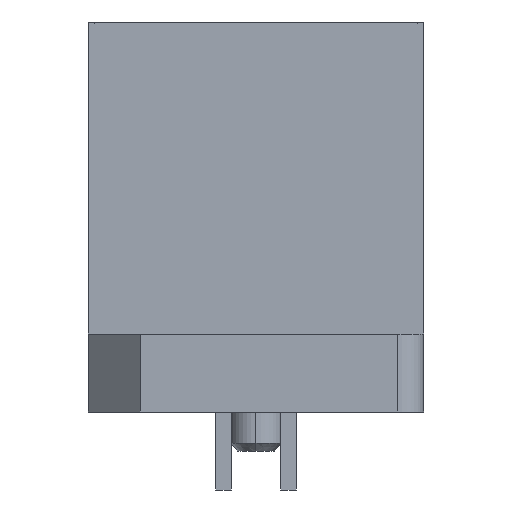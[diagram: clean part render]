
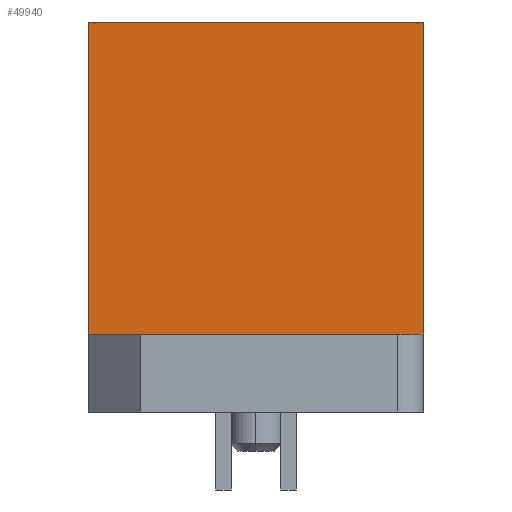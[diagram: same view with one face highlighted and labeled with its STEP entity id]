
A CAD part, left-side view. The second image highlights one B-rep face of the part: STEP entity #49940.
In plain terms, the highlighted planar face has unit normal (-1, 0, 0).
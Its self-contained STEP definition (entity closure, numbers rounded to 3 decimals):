
#6860=CARTESIAN_POINT('',(1.472,5.264,-5.5));
#6870=VERTEX_POINT('',#6860);
#6900=CARTESIAN_POINT('',(1.472,5.264,
-13.));
#6910=DIRECTION('',(0.,0.,-1.));
#6920=VECTOR('',#6910,1.);
#6930=LINE('',#6900,#6920);
#6940=CARTESIAN_POINT('',(1.472,5.264,-17.5));
#6950=VERTEX_POINT('',#6940);
#6960=EDGE_CURVE('',#6870,#6950,#6930,.T.);
#33430=CARTESIAN_POINT('',(1.472,-7.636,-17.5));
#33440=VERTEX_POINT('',#33430);
#33470=CARTESIAN_POINT('',(1.472,-7.636,
-13.));
#33480=DIRECTION('',(0.,0.,1.));
#33490=VECTOR('',#33480,1.);
#33500=LINE('',#33470,#33490);
#33510=CARTESIAN_POINT('',(1.472,-7.636,-5.5));
#33520=VERTEX_POINT('',#33510);
#33530=EDGE_CURVE('',#33440,#33520,#33500,.T.);
#49540=CARTESIAN_POINT('',(1.472,0.364,-17.5));
#49550=DIRECTION('',(0.,1.,0.));
#49560=VECTOR('',#49550,1.);
#49570=LINE('',#49540,#49560);
#49580=EDGE_CURVE('',#33440,#6950,#49570,.T.);
#49780=CARTESIAN_POINT('',(1.472,6.554,-19.1));
#49790=DIRECTION('',(-1.,0.,0.));
#49800=DIRECTION('',(0.,0.,1.));
#49810=AXIS2_PLACEMENT_3D('',#49780,#49790,#49800);
#49820=PLANE('',#49810);
#49830=ORIENTED_EDGE('',*,*,#6960,.T.);
#49840=CARTESIAN_POINT('',(1.472,0.364,-5.5));
#49850=DIRECTION('',(0.,1.,0.));
#49860=VECTOR('',#49850,1.);
#49870=LINE('',#49840,#49860);
#49880=EDGE_CURVE('',#33520,#6870,#49870,.T.);
#49890=ORIENTED_EDGE('',*,*,#49880,.T.);
#49900=ORIENTED_EDGE('',*,*,#33530,.T.);
#49910=ORIENTED_EDGE('',*,*,#49580,.F.);
#49920=EDGE_LOOP('',(#49910,#49900,#49890,#49830));
#49930=FACE_OUTER_BOUND('',#49920,.T.);
#49940=ADVANCED_FACE('',(#49930),#49820,.T.);
